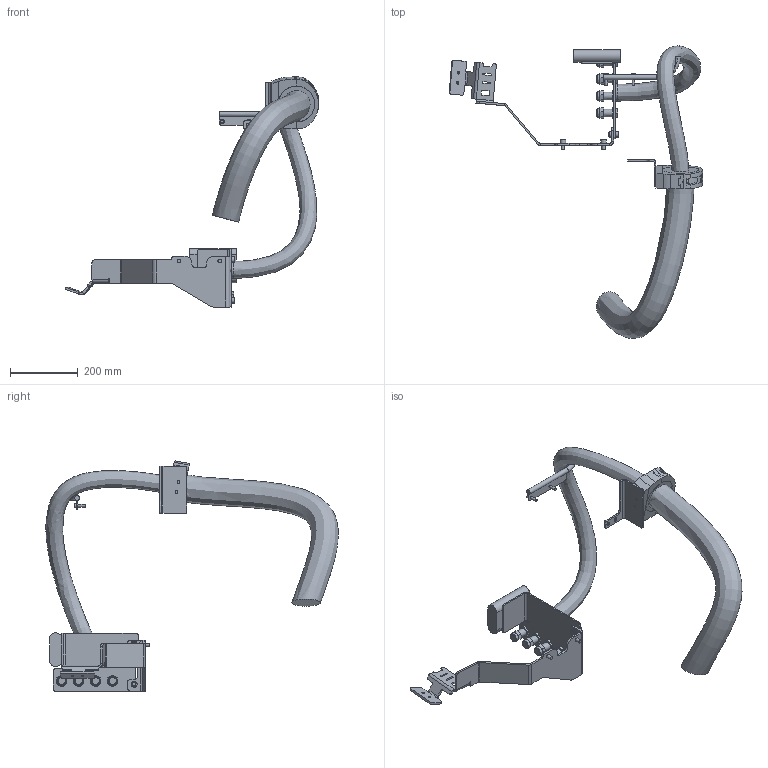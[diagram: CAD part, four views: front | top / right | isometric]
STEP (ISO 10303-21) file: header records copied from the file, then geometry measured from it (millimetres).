
FILE_DESCRIPTION (( 'STEP AP214' ), '1' );
FILE_NAME ('IRB6740-LID-SW_230kg-300_OC_00_LINK03a_CABLE.step', '2026-05-07T13:20:38', ( '' ), ( '' ), 'SwSTEP 2.0', 'SolidWorks 2024', '' );
FILE_SCHEMA (( 'AUTOMOTIVE_DESIGN' ));
Length unit declared in the file: millimetre
Products named in the file (1): IRB6740-LID-SW_230kg-300_OC_00_LINK03a_CABLE
Bounding box: 747.03 x 860.37 x 677.9 mm (x, y, z)
Volume: 7528271.9 mm3; surface area: 720404.1 mm2
Topology: 1 solids, 5 shells, 507 faces, 1237 edges, 796 vertices
Faces by surface type: plane 343, cylinder 140, cone 12, bspline 6, torus 6
Full cylindrical faces by diameter (mm): 6.8 x2, 8 x4, 9.8 x4, 10 x4, 10.22 x4, 11 x4, 13.27 x2, 15 x1, 16.27 x4, 17.2 x4, 17.321 x2, 20 x4, 21 x4, 22 x4, 50 x1, 107.199 x1
Entity records: 21484 total; most frequent: CARTESIAN_POINT 4389, DIRECTION 2395, ORIENTED_EDGE 2246, EDGE_CURVE 1123, AXIS2_PLACEMENT_3D 826, VERTEX_POINT 752, VECTOR 743, LINE 743
